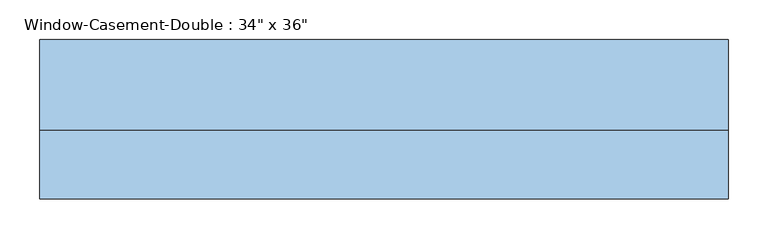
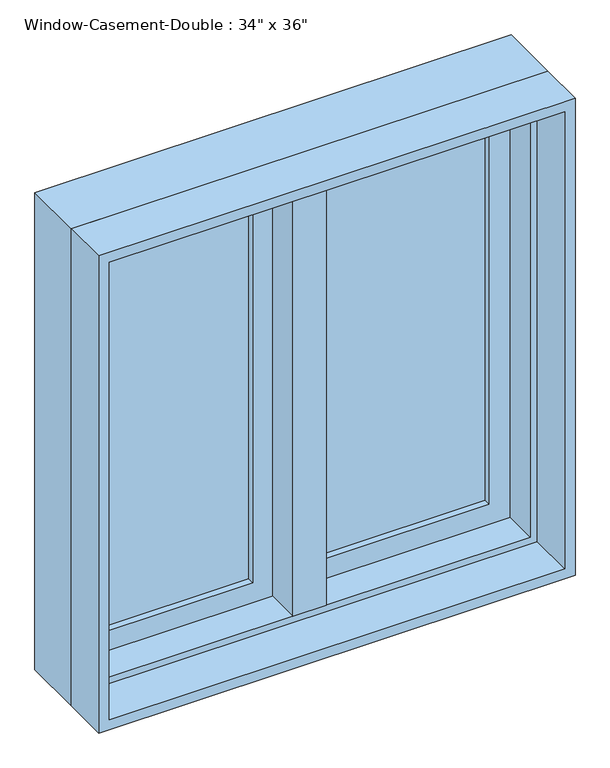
"""IFC4 building model written with IfcOpenShell, lengths in millimetres: window geometry."""

from ifc_helpers import new_model, si_unit, frame, origin, place, context, project, spatial, polyline, outline, extrude, faceted_brep, source, transform, mapped, element, save


def window_2368842e(model_context):
    return source(origin(), model_context, "Body", "SolidModel", [
        faceted_brep([(9.525, 109.5375, 1816.1), (-9.525, 109.5375, 1816.1), (-9.525, 58.7375, 1816.1), (9.525, 58.7375, 1816.1), (9.525, 109.5375, 927.1), (9.525, 58.7375, 927.1), (-9.525, 58.7375, 927.1), (-9.525, 109.5375, 927.1), (-9.525, 58.7375, 946.15), (-9.525, 58.7375, 1797.05), (-30.1625, 58.7375, 946.15), (-30.1625, 58.7375, 1797.05), (-30.1625, -4.7625, 946.15), (-30.1625, -4.7625, 1797.05), (30.1625, -4.7625, 946.15), (30.1625, -4.7625, 1797.05), (30.1625, 58.7375, 946.15), (30.1625, 58.7375, 1797.05), (9.525, 58.7375, 946.15), (9.525, 58.7375, 1797.05)], [[[0, 1, 2, 3]], [[4, 5, 6, 7]], [[1, 0, 4, 7]], [[2, 1, 7, 6, 8, 9]], [[9, 8, 10, 11]], [[11, 10, 12, 13]], [[13, 12, 14, 15]], [[15, 14, 16, 17]], [[17, 16, 18, 19]], [[0, 3, 19, 18, 5, 4]], [[18, 8, 6, 5]], [[9, 19, 3, 2]], [[8, 18, 16, 14, 12, 10]], [[19, 9, 11, 13, 15, 17]]]),
        extrude(outline(polyline([(-66.675, 90.4875), (-66.675, 84.1375), (-361.95, 84.1375), (-361.95, 90.4875), (-66.675, 90.4875)])), frame((0.0, 0.0, 984.25), z_axis=(0.0, 0.0, 1.0), x_axis=(1.0, 0.0, 0.0)), (0.0, 0.0, 1.0), 774.7),
        extrude(outline(polyline([(-361.95, 71.4375), (-361.95, 77.7875), (-66.675, 77.7875), (-66.675, 71.4375), (-361.95, 71.4375)])), frame((0.0, 0.0, 984.25), z_axis=(0.0, 0.0, 1.0), x_axis=(1.0, 0.0, 0.0)), (0.0, 0.0, 1.0), 774.7),
        extrude(outline(polyline([(361.95, 90.4875), (361.95, 84.1375), (66.675, 84.1375), (66.675, 90.4875), (361.95, 90.4875)])), frame((0.0, 0.0, 984.25), z_axis=(0.0, 0.0, 1.0), x_axis=(1.0, 0.0, 0.0)), (0.0, 0.0, 1.0), 774.7),
        extrude(outline(polyline([(66.675, 71.4375), (66.675, 77.7875), (361.95, 77.7875), (361.95, 71.4375), (66.675, 71.4375)])), frame((0.0, 0.0, 984.25), z_axis=(0.0, 0.0, 1.0), x_axis=(1.0, 0.0, 0.0)), (0.0, 0.0, 1.0), 774.7),
        extrude(outline(polyline([(1816.1, -419.1), (927.1, -419.1), (927.1, -9.525), (1816.1, -9.525), (1816.1, -419.1)]), holes=[polyline([(1758.95, -66.675), (984.25, -66.675), (984.25, -361.95), (1758.95, -361.95), (1758.95, -66.675)])]), frame((0.0, 58.7375, 0.0), z_axis=(0.0, 1.0, 0.0), x_axis=(0.0, 0.0, 1.0)), (0.0, 0.0, 1.0), 44.45),
        extrude(outline(polyline([(927.1, 419.1), (1816.1, 419.1), (1816.1, 9.525), (927.1, 9.525), (927.1, 419.1)]), holes=[polyline([(984.25, 66.675), (1758.95, 66.675), (1758.95, 361.95), (984.25, 361.95), (984.25, 66.675)])]), frame((0.0, 58.7375, 0.0), z_axis=(0.0, 1.0, 0.0), x_axis=(0.0, 0.0, 1.0)), (0.0, 0.0, 1.0), 44.45),
        extrude(outline(polyline([(1828.8, -431.8), (914.4, -431.8), (914.4, 431.8), (1828.8, 431.8), (1828.8, -431.8)]), holes=[polyline([(1809.75, 412.75), (933.45, 412.75), (933.45, -412.75), (1809.75, -412.75), (1809.75, 412.75)])]), frame((0.0, -90.4875, 0.0), z_axis=(0.0, 1.0, 0.0), x_axis=(0.0, 0.0, 1.0)), (0.0, 0.0, 1.0), 85.725),
        faceted_brep([(400.05, 58.7375, 1797.05), (400.05, -4.7625, 1797.05), (-400.05, -4.7625, 1797.05), (-400.05, 58.7375, 1797.05), (419.1, 109.5375, 1816.1), (419.1, 58.7375, 1816.1), (-419.1, 58.7375, 1816.1), (-419.1, 109.5375, 1816.1), (431.8, -4.7625, 1828.8), (431.8, 109.5375, 1828.8), (-431.8, 109.5375, 1828.8), (-431.8, -4.7625, 1828.8), (-400.05, -4.7625, 946.15), (-400.05, 58.7375, 946.15), (-419.1, 58.7375, 927.1), (-419.1, 109.5375, 927.1), (-431.8, 109.5375, 914.4), (-431.8, -4.7625, 914.4), (400.05, -4.7625, 946.15), (400.05, 58.7375, 946.15), (419.1, 58.7375, 927.1), (419.1, 109.5375, 927.1), (431.8, 109.5375, 914.4), (431.8, -4.7625, 914.4)], [[[0, 1, 2, 3]], [[4, 5, 6, 7]], [[8, 9, 10, 11]], [[3, 2, 12, 13]], [[7, 6, 14, 15]], [[11, 10, 16, 17]], [[13, 12, 18, 19]], [[15, 14, 20, 21]], [[17, 16, 22, 23]], [[11, 17, 23, 8], [1, 18, 12, 2]], [[19, 18, 1, 0]], [[5, 20, 14, 6], [3, 13, 19, 0]], [[21, 20, 5, 4]], [[23, 22, 9, 8]], [[9, 22, 16, 10], [7, 15, 21, 4]]]),
    ])


if __name__ == "__main__":
    model = new_model("IFC4")
    model_context = context("Model", 3, world=origin())
    ifc_project = project(units=[si_unit("LENGTHUNIT", "METRE", prefix="MILLI")], contexts=[model_context])
    site = spatial("IfcSite", under=ifc_project)
    building = spatial("IfcBuilding", under=site)
    placement = place(None, origin())
    window_shape = window_2368842e(model_context)
    element("IfcWindow", 1, ObjectType="Window-Casement-Double : 34\" x 36\"", at=placement, inside=building, context=model_context, shape_type="MappedRepresentation", body=[
        mapped(window_shape, transform((0.0, 0.0, 0.0), x_axis=(1.0, 0.0, 0.0), y_axis=(0.0, 1.0, 0.0), z_axis=(0.0, 0.0, 1.0))),
    ])
    save(model, "model.ifc")
